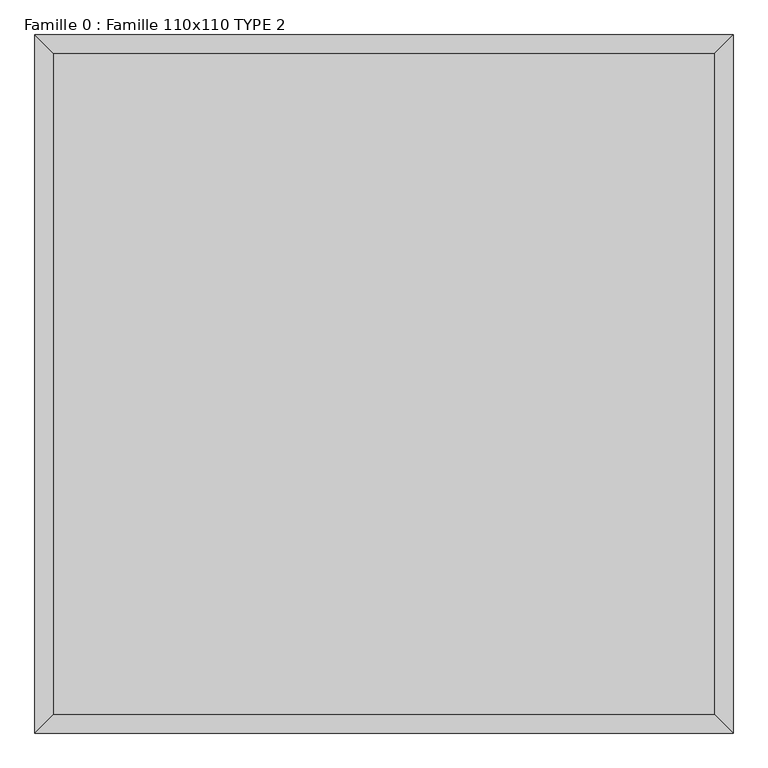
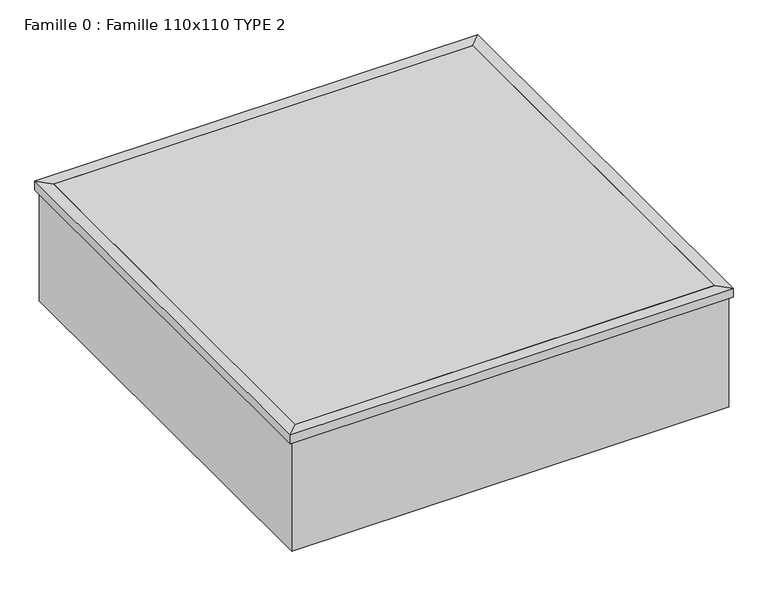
"""IFC4 building model written with IfcOpenShell, lengths in millimetres: proxy geometry, Famille 0 : Famille 110x110 TYPE 2."""

from ifc_helpers import new_model, si_unit, frame, origin, place, context, project, spatial, polyline, outline, extrude, faceted_brep, source, transform, mapped, element, save


def famille_0_famille_110x110_type_2_30ba7d39(model_context):
    return source(origin(), model_context, "Body", "SolidModel", [
        extrude(outline(polyline([(575.0, -575.0), (-575.0, -575.0), (-575.0, 575.0), (575.0, 575.0), (575.0, -575.0)])), frame((0.0, 0.0, 175.9914971), z_axis=(0.0, 0.0, 1.0), x_axis=(1.0, 0.0, 0.0)), (0.0, 0.0, 1.0), 19.1625783),
        faceted_brep([(-575.0, -575.0, 195.1540754), (-607.5, -607.5, 195.1540754), (607.5, -607.5, 195.1540754), (575.0, -575.0, 195.1540754), (-550.0, -550.0, -150.0), (-550.0, -550.0, 175.9914971), (550.0, -550.0, 175.9914971), (550.0, -550.0, -150.0), (-600.0, -600.0, -150.0), (600.0, -600.0, -150.0), (607.5, 607.5, 195.1540754), (575.0, 575.0, 195.1540754), (550.0, 550.0, 175.9914971), (550.0, 550.0, -150.0), (600.0, 600.0, -150.0), (-607.5, 607.5, 195.1540754), (-575.0, 575.0, 195.1540754), (-550.0, 550.0, 175.9914971), (-550.0, 550.0, -150.0), (-600.0, 600.0, -150.0), (-607.5, -607.5, 170.0), (-600.0, -600.0, 170.0), (600.0, -600.0, 170.0), (607.5, -607.5, 170.0), (-575.0, -575.0, 175.9914971), (575.0, -575.0, 175.9914971), (600.0, 600.0, 170.0), (607.5, 607.5, 170.0), (575.0, 575.0, 175.9914971), (-600.0, 600.0, 170.0), (-607.5, 607.5, 170.0), (-575.0, 575.0, 175.9914971)], [[[0, 1, 2, 3]], [[4, 5, 6, 7]], [[8, 4, 7, 9]], [[3, 2, 10, 11]], [[7, 6, 12, 13]], [[9, 7, 13, 14]], [[11, 10, 15, 16]], [[13, 12, 17, 18]], [[14, 13, 18, 19]], [[16, 15, 1, 0]], [[18, 17, 5, 4]], [[19, 18, 4, 8]], [[20, 21, 22, 23]], [[24, 0, 3, 25]], [[5, 24, 25, 6]], [[23, 22, 26, 27]], [[25, 3, 11, 28]], [[6, 25, 28, 12]], [[27, 26, 29, 30]], [[28, 11, 16, 31]], [[12, 28, 31, 17]], [[30, 29, 21, 20]], [[31, 16, 0, 24]], [[17, 31, 24, 5]], [[21, 8, 9, 22]], [[1, 20, 23, 2]], [[22, 9, 14, 26]], [[2, 23, 27, 10]], [[26, 14, 19, 29]], [[10, 27, 30, 15]], [[29, 19, 8, 21]], [[15, 30, 20, 1]]]),
    ])


if __name__ == "__main__":
    model = new_model("IFC4")
    model_context = context("Model", 3, world=origin())
    ifc_project = project(units=[si_unit("LENGTHUNIT", "METRE", prefix="MILLI")], contexts=[model_context])
    site = spatial("IfcSite", under=ifc_project)
    building = spatial("IfcBuilding", under=site)
    placement = place(None, origin())
    famille_0_famille_110x110_type_2_shape = famille_0_famille_110x110_type_2_30ba7d39(model_context)
    element("IfcBuildingElementProxy", 1, Name="Famille 0 : Famille 110x110 TYPE 2", ObjectType="Famille 0 : Famille 110x110 TYPE 2", at=placement, inside=building, context=model_context, shape_type="MappedRepresentation", body=[
        mapped(famille_0_famille_110x110_type_2_shape, transform((0.0, 0.0, 0.0), x_axis=(1.0, 0.0, 0.0), y_axis=(0.0, 1.0, 0.0), z_axis=(0.0, 0.0, 1.0))),
    ])
    save(model, "model.ifc")
